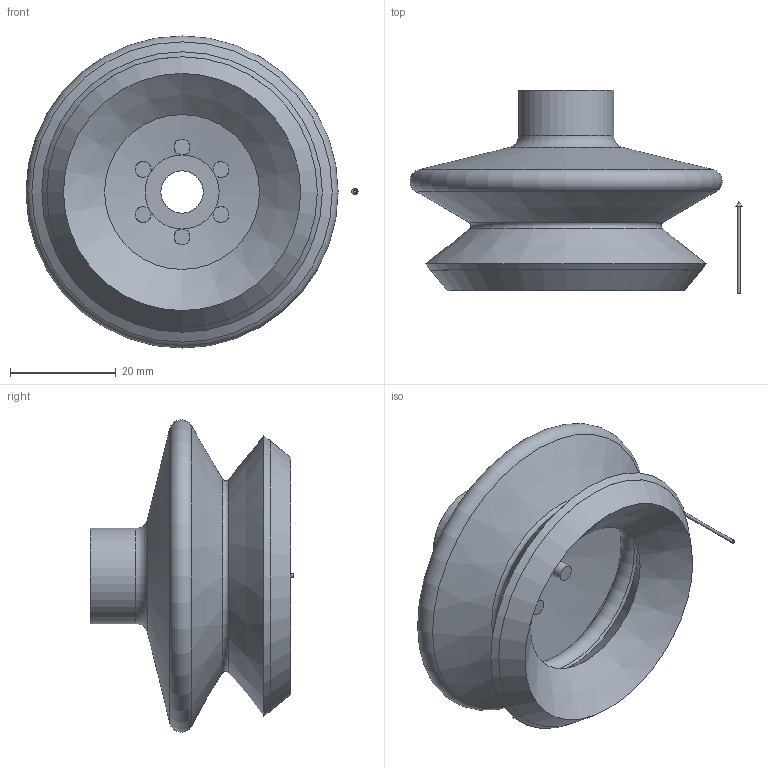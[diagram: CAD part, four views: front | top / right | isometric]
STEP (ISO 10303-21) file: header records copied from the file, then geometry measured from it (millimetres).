
FILE_DESCRIPTION(('STEP AP214'),'1');
FILE_NAME('CA.08.26.D53.AS.stp','2019-04-17T13:02:59',(' '),(' '),'Spatial InterOp 3D',' ',' ');
FILE_SCHEMA(('AUTOMOTIVE_DESIGN { 1 0 10303 214 1 1 1 1 }'));
Length unit declared in the file: millimetre
Products named in the file (4): CA.08.26.D53.AS; FRECCIA.17.5; 08.26.D53; 08.26.D53.AS
Assembly tree (3 placements, depth 2):
  CA.08.26.D53.AS
    FRECCIA.17.5
    08.26.D53
    08.26.D53.AS
Bounding box: 62.74 x 38.49 x 58.99 mm (x, y, z)
Volume: 19926 mm3; surface area: 18231.5 mm2
Topology: 3 solids, 3 shells, 36 faces, 75 edges, 43 vertices
Faces by surface type: cone 12, plane 10, cylinder 9, torus 5
Full cylindrical faces by diameter (mm): 0.6 x1, 3 x6, 8 x1, 18 x1
Entity records: 1401 total; most frequent: CARTESIAN_POINT 409, DIRECTION 148, ORIENTED_EDGE 80, AXIS2_PLACEMENT_3D 74, EDGE_LOOP 64, FACE_OUTER_BOUND 50, EDGE_CURVE 40, STYLED_ITEM 36
